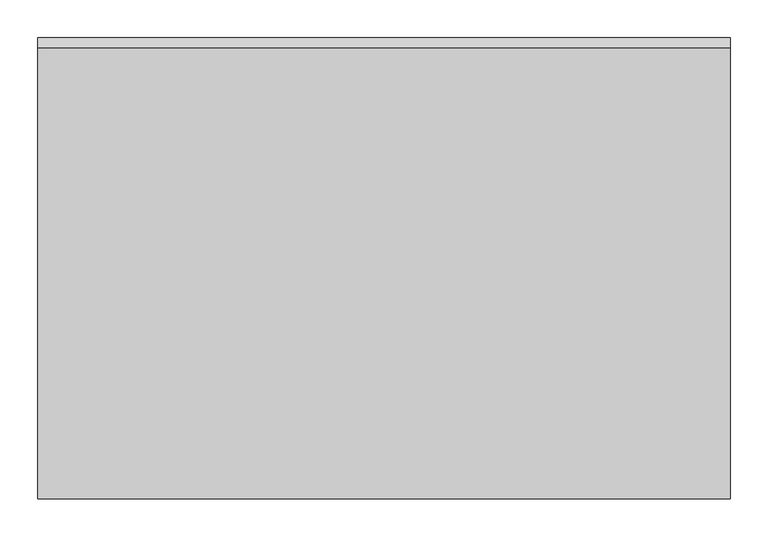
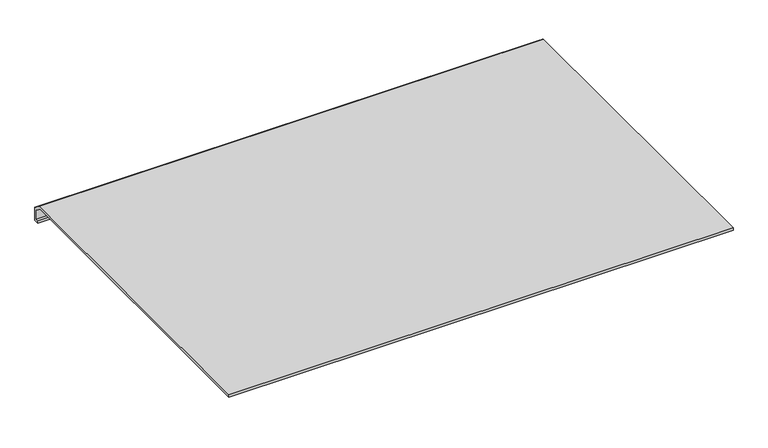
"""IFC4 building model written with IfcOpenShell, lengths in millimetres: furniture geometry, Haworth_Belong_Blotter : Blotter."""

from ifc_helpers import new_model, si_unit, frame, origin, place, context, project, spatial, polyline, outline, extrude, source, transform, mapped, element, save


def furniture_33e03ec0(model_context):
    return source(origin(), model_context, "Body", "SweptSolid", [
        extrude(outline(polyline([(592.5968004, 736.8979469), (597.0693135, 736.8979469), (597.0693135, 753.5672056), (585.9028639, 762.2413128), (-7.6050169, 762.2413128), (-7.6050169, 767.0038128), (588.5857065, 767.0038128), (601.9949831, 756.5662454), (601.9949831, 731.9010136), (592.5968004, 731.9010136), (592.5968004, 736.8979469)])), frame((-12.7, 0.0, 0.0), z_axis=(1.0, 0.0, 0.0), x_axis=(0.0, 1.0, 0.0)), (0.0, 0.0, 1.0), 914.4),
    ])


if __name__ == "__main__":
    model = new_model("IFC4")
    model_context = context("Model", 3, world=origin())
    ifc_project = project(units=[si_unit("LENGTHUNIT", "METRE", prefix="MILLI")], contexts=[model_context])
    site = spatial("IfcSite", under=ifc_project)
    building = spatial("IfcBuilding", under=site)
    placement = place(None, origin())
    furniture_shape = furniture_33e03ec0(model_context)
    element("IfcFurniture", 1, ObjectType="Haworth_Belong_Blotter : Blotter", at=placement, inside=building, context=model_context, shape_type="MappedRepresentation", body=[
        mapped(furniture_shape, transform((0.0, 0.0, 0.0), x_axis=(1.0, 0.0, 0.0), y_axis=(0.0, 1.0, 0.0), z_axis=(0.0, 0.0, 1.0))),
    ])
    save(model, "model.ifc")
